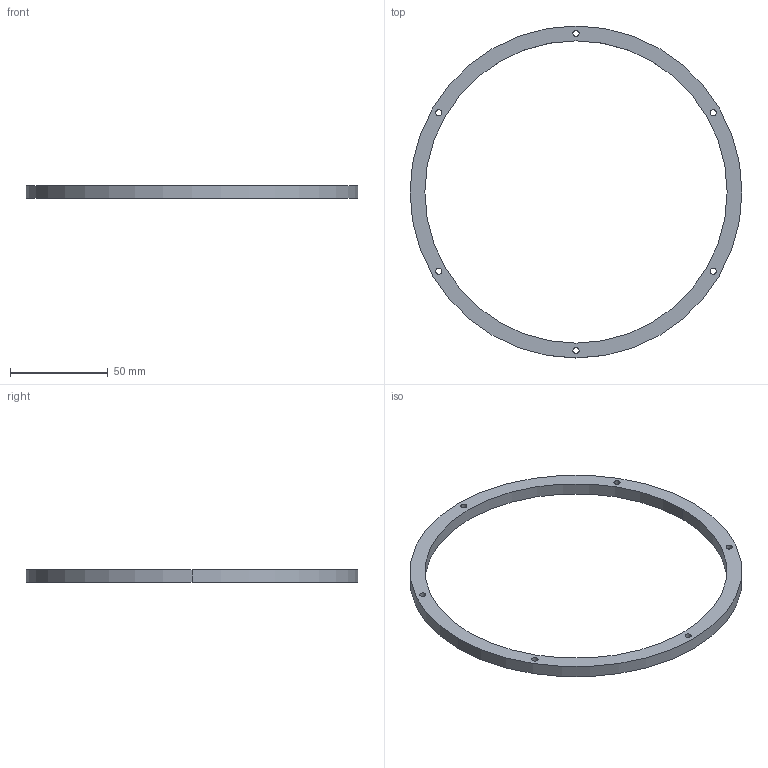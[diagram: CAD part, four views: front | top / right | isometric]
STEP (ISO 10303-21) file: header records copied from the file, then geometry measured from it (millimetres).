
FILE_DESCRIPTION (( 'STEP AP214' ), '1' );
FILE_NAME ('Rim.STEP', '2019-10-04T21:07:06', ( 'John' ), ( 'Not Good' ), 'SwSTEP 2.0', 'SolidWorks 2008', '' );
FILE_SCHEMA (( 'AUTOMOTIVE_DESIGN' ));
Length unit declared in the file: inch
Products named in the file (1): Rim
Bounding box: 170.18 x 170.18 x 6.35 mm (x, y, z)
Volume: 24409.5 mm3; surface area: 14553.9 mm2
Topology: 1 solids, 1 shells, 18 faces, 48 edges, 32 vertices
Faces by surface type: cylinder 16, plane 2
Entity records: 639 total; most frequent: DIRECTION 118, CARTESIAN_POINT 99, ORIENTED_EDGE 96, AXIS2_PLACEMENT_3D 51, EDGE_CURVE 48, EDGE_LOOP 32, VERTEX_POINT 32, CIRCLE 32
